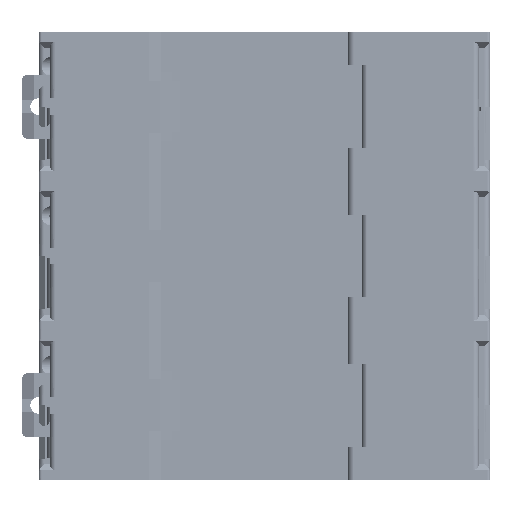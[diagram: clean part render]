
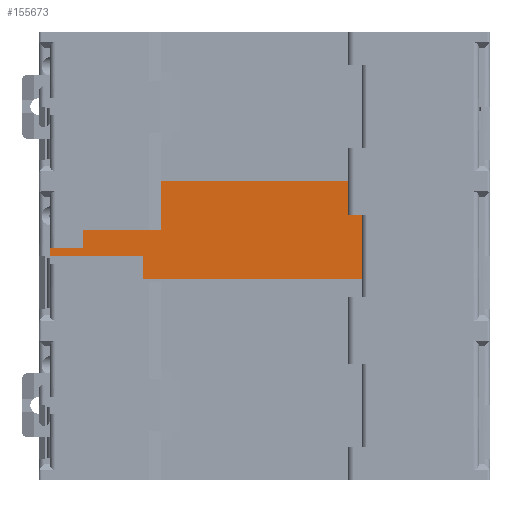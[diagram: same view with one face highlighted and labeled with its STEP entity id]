
A CAD part, front view. The second image highlights one B-rep face of the part: STEP entity #155673.
In plain terms, the highlighted planar face has unit normal (0, -1, 0).
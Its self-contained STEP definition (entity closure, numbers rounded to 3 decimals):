
#760 = VECTOR ( 'NONE', #74115, 1000. ) ;
#1422 = EDGE_CURVE ( 'NONE', #149726, #96917, #69380, .T. ) ;
#2735 = DIRECTION ( 'NONE',  ( 1., 0., 0. ) ) ;
#2982 = VERTEX_POINT ( 'NONE', #9371 ) ;
#3458 = ORIENTED_EDGE ( 'NONE', *, *, #124512, .F. ) ;
#5022 = ORIENTED_EDGE ( 'NONE', *, *, #1422, .T. ) ;
#5976 = VECTOR ( 'NONE', #157207, 1000. ) ;
#6537 = DIRECTION ( 'NONE',  ( 1., 0., 0. ) ) ;
#6662 = VERTEX_POINT ( 'NONE', #66065 ) ;
#8019 = VECTOR ( 'NONE', #6537, 1000. ) ;
#9200 = EDGE_CURVE ( 'NONE', #6662, #41472, #45555, .T. ) ;
#9371 = CARTESIAN_POINT ( 'NONE',  ( -21.7, -60., 7.5 ) ) ;
#10953 = ORIENTED_EDGE ( 'NONE', *, *, #95327, .F. ) ;
#11141 = EDGE_CURVE ( 'NONE', #2982, #137751, #133783, .T. ) ;
#12045 = ORIENTED_EDGE ( 'NONE', *, *, #118221, .F. ) ;
#12289 = VECTOR ( 'NONE', #152210, 1000. ) ;
#13954 = DIRECTION ( 'NONE',  ( 1., 0., 0. ) ) ;
#15695 = VECTOR ( 'NONE', #71758, 1000. ) ;
#15929 = EDGE_CURVE ( 'NONE', #131414, #45618, #72767, .T. ) ;
#17761 = FACE_OUTER_BOUND ( 'NONE', #139025, .T. ) ;
#19151 = ORIENTED_EDGE ( 'NONE', *, *, #9200, .T. ) ;
#20219 = EDGE_CURVE ( 'NONE', #115569, #41472, #43229, .T. ) ;
#26609 = DIRECTION ( 'NONE',  ( 1., 0., 0. ) ) ;
#27339 = CARTESIAN_POINT ( 'NONE',  ( 1.246, -60., 11.6 ) ) ;
#29114 = LINE ( 'NONE', #64352, #58473 ) ;
#30646 = EDGE_CURVE ( 'NONE', #146614, #158610, #144862, .T. ) ;
#31767 = CARTESIAN_POINT ( 'NONE',  ( -30.9, -60., 17.8 ) ) ;
#32233 = ORIENTED_EDGE ( 'NONE', *, *, #143891, .F. ) ;
#33303 = DIRECTION ( 'NONE',  ( 0.953, 0., 0.302 ) ) ;
#34117 = CARTESIAN_POINT ( 'NONE',  ( 1.246, -60., 25. ) ) ;
#35324 = VECTOR ( 'NONE', #33303, 1000. ) ;
#36443 = ORIENTED_EDGE ( 'NONE', *, *, #30646, .T. ) ;
#37152 = VERTEX_POINT ( 'NONE', #161693 ) ;
#38563 = VECTOR ( 'NONE', #133125, 1000. ) ;
#39033 = CARTESIAN_POINT ( 'NONE',  ( -38.5, -60., 17.8 ) ) ;
#39487 = VECTOR ( 'NONE', #55673, 1000. ) ;
#39547 = CARTESIAN_POINT ( 'NONE',  ( -19., -60., 18. ) ) ;
#41472 = VERTEX_POINT ( 'NONE', #147302 ) ;
#41620 = ORIENTED_EDGE ( 'NONE', *, *, #15929, .F. ) ;
#43034 = VECTOR ( 'NONE', #72542, 1000. ) ;
#43159 = CARTESIAN_POINT ( 'NONE',  ( 20.3, -60., -34.51 ) ) ;
#43229 = LINE ( 'NONE', #144619, #5976 ) ;
#45555 = LINE ( 'NONE', #39547, #12289 ) ;
#45618 = VERTEX_POINT ( 'NONE', #122235 ) ;
#55673 = DIRECTION ( 'NONE',  ( 0.776, 0., -0.631 ) ) ;
#56010 = LINE ( 'NONE', #123850, #118599 ) ;
#56477 = VECTOR ( 'NONE', #13954, 1000. ) ;
#58473 = VECTOR ( 'NONE', #26609, 1000. ) ;
#63748 = CARTESIAN_POINT ( 'NONE',  ( -21.7, -60., 7.5 ) ) ;
#64352 = CARTESIAN_POINT ( 'NONE',  ( 1.246, -60., 11.6 ) ) ;
#64672 = ORIENTED_EDGE ( 'NONE', *, *, #145608, .F. ) ;
#65388 = CARTESIAN_POINT ( 'NONE',  ( -22.3, -60., 18. ) ) ;
#66065 = CARTESIAN_POINT ( 'NONE',  ( -18.5, -60., 18.5 ) ) ;
#66400 = CARTESIAN_POINT ( 'NONE',  ( -22.3, -60., 19.1 ) ) ;
#67164 = CARTESIAN_POINT ( 'NONE',  ( -28., -60., 19.1 ) ) ;
#67500 = EDGE_CURVE ( 'NONE', #2982, #149726, #93724, .T. ) ;
#67516 = DIRECTION ( 'NONE',  ( 0.913, 0., 0.409 ) ) ;
#67750 = CARTESIAN_POINT ( 'NONE',  ( 17.5, -60., 11.6 ) ) ;
#68886 = EDGE_CURVE ( 'NONE', #126133, #154906, #126900, .T. ) ;
#69380 = LINE ( 'NONE', #43159, #77252 ) ;
#69483 = CARTESIAN_POINT ( 'NONE',  ( 1.246, -60., 11.6 ) ) ;
#69808 = CARTESIAN_POINT ( 'NONE',  ( 17.5, -60., 25. ) ) ;
#71758 = DIRECTION ( 'NONE',  ( 0., 0., 1. ) ) ;
#72542 = DIRECTION ( 'NONE',  ( 0., 0., 1. ) ) ;
#72767 = LINE ( 'NONE', #118017, #39487 ) ;
#74115 = DIRECTION ( 'NONE',  ( 0., 0., 1. ) ) ;
#74630 = LINE ( 'NONE', #69483, #8019 ) ;
#76986 = VERTEX_POINT ( 'NONE', #159289 ) ;
#77252 = VECTOR ( 'NONE', #130651, 1000. ) ;
#77653 = DIRECTION ( 'NONE',  ( 0., -1., 0. ) ) ;
#80162 = CARTESIAN_POINT ( 'NONE',  ( -38.5, -60., 17.8 ) ) ;
#86682 = AXIS2_PLACEMENT_3D ( 'NONE', #27339, #77653, #2735 ) ;
#88584 = ORIENTED_EDGE ( 'NONE', *, *, #116542, .T. ) ;
#90529 = EDGE_CURVE ( 'NONE', #142923, #115569, #56010, .T. ) ;
#93690 = VECTOR ( 'NONE', #117887, 1000. ) ;
#93724 = LINE ( 'NONE', #63748, #56477 ) ;
#95327 = EDGE_CURVE ( 'NONE', #6662, #37152, #146804, .T. ) ;
#95660 = LINE ( 'NONE', #117802, #99630 ) ;
#96501 = DIRECTION ( 'NONE',  ( 1., 0., 0. ) ) ;
#96917 = VERTEX_POINT ( 'NONE', #139588 ) ;
#99320 = CARTESIAN_POINT ( 'NONE',  ( -21.7, -60., -34.51 ) ) ;
#99630 = VECTOR ( 'NONE', #67516, 1000. ) ;
#101925 = LINE ( 'NONE', #120770, #35324 ) ;
#105141 = LINE ( 'NONE', #120555, #38563 ) ;
#110069 = ORIENTED_EDGE ( 'NONE', *, *, #157095, .F. ) ;
#111286 = DIRECTION ( 'NONE',  ( 0., 0., -1. ) ) ;
#113085 = CARTESIAN_POINT ( 'NONE',  ( -21.7, -60., 11.6 ) ) ;
#114821 = PLANE ( 'NONE',  #86682 ) ;
#115569 = VERTEX_POINT ( 'NONE', #65388 ) ;
#116542 = EDGE_CURVE ( 'NONE', #76986, #137751, #74630, .T. ) ;
#117318 = ORIENTED_EDGE ( 'NONE', *, *, #11141, .F. ) ;
#117802 = CARTESIAN_POINT ( 'NONE',  ( -28., -60., 19.1 ) ) ;
#117887 = DIRECTION ( 'NONE',  ( -1., 0., 0. ) ) ;
#118017 = CARTESIAN_POINT ( 'NONE',  ( -26.4, -60., 17.8 ) ) ;
#118221 = EDGE_CURVE ( 'NONE', #146614, #96917, #29114, .T. ) ;
#118260 = ORIENTED_EDGE ( 'NONE', *, *, #68886, .T. ) ;
#118599 = VECTOR ( 'NONE', #111286, 1000. ) ;
#120555 = CARTESIAN_POINT ( 'NONE',  ( -38.5, -60., 11.6 ) ) ;
#120646 = ORIENTED_EDGE ( 'NONE', *, *, #67500, .T. ) ;
#120770 = CARTESIAN_POINT ( 'NONE',  ( -22.3, -60., 19.1 ) ) ;
#122235 = CARTESIAN_POINT ( 'NONE',  ( -26.4, -60., 17.8 ) ) ;
#122274 = CARTESIAN_POINT ( 'NONE',  ( -18.5, -60., 17.8 ) ) ;
#123850 = CARTESIAN_POINT ( 'NONE',  ( -22.3, -60., 18. ) ) ;
#124512 = EDGE_CURVE ( 'NONE', #76986, #154906, #105141, .T. ) ;
#125640 = ORIENTED_EDGE ( 'NONE', *, *, #90529, .F. ) ;
#126133 = VERTEX_POINT ( 'NONE', #31767 ) ;
#126900 = LINE ( 'NONE', #80162, #93690 ) ;
#130651 = DIRECTION ( 'NONE',  ( 0., 0., 1. ) ) ;
#131414 = VERTEX_POINT ( 'NONE', #67164 ) ;
#133125 = DIRECTION ( 'NONE',  ( 0., 0., 1. ) ) ;
#133783 = LINE ( 'NONE', #99320, #760 ) ;
#137751 = VERTEX_POINT ( 'NONE', #113085 ) ;
#138772 = VECTOR ( 'NONE', #96501, 1000. ) ;
#139025 = EDGE_LOOP ( 'NONE', ( #64672, #10953, #19151, #150617, #125640, #32233, #41620, #110069, #118260, #3458, #88584, #117318, #120646, #5022, #12045, #36443 ) ) ;
#139588 = CARTESIAN_POINT ( 'NONE',  ( 20.3, -60., 11.6 ) ) ;
#142694 = LINE ( 'NONE', #34117, #138772 ) ;
#142923 = VERTEX_POINT ( 'NONE', #66400 ) ;
#143891 = EDGE_CURVE ( 'NONE', #45618, #142923, #101925, .T. ) ;
#144619 = CARTESIAN_POINT ( 'NONE',  ( -22.3, -60., 18. ) ) ;
#144862 = LINE ( 'NONE', #159291, #15695 ) ;
#145608 = EDGE_CURVE ( 'NONE', #37152, #158610, #142694, .T. ) ;
#146614 = VERTEX_POINT ( 'NONE', #67750 ) ;
#146804 = LINE ( 'NONE', #122274, #43034 ) ;
#147302 = CARTESIAN_POINT ( 'NONE',  ( -19., -60., 18. ) ) ;
#149726 = VERTEX_POINT ( 'NONE', #151425 ) ;
#150617 = ORIENTED_EDGE ( 'NONE', *, *, #20219, .F. ) ;
#151425 = CARTESIAN_POINT ( 'NONE',  ( 20.3, -60., 7.5 ) ) ;
#152210 = DIRECTION ( 'NONE',  ( -0.707, 0., -0.707 ) ) ;
#154906 = VERTEX_POINT ( 'NONE', #39033 ) ;
#155673 = ADVANCED_FACE ( 'NONE', ( #17761 ), #114821, .T. ) ;
#157095 = EDGE_CURVE ( 'NONE', #126133, #131414, #95660, .T. ) ;
#157207 = DIRECTION ( 'NONE',  ( 1., 0., 0. ) ) ;
#158610 = VERTEX_POINT ( 'NONE', #69808 ) ;
#159289 = CARTESIAN_POINT ( 'NONE',  ( -38.5, -60., 11.6 ) ) ;
#159291 = CARTESIAN_POINT ( 'NONE',  ( 17.5, -60., 11.6 ) ) ;
#161693 = CARTESIAN_POINT ( 'NONE',  ( -18.5, -60., 25. ) ) ;
